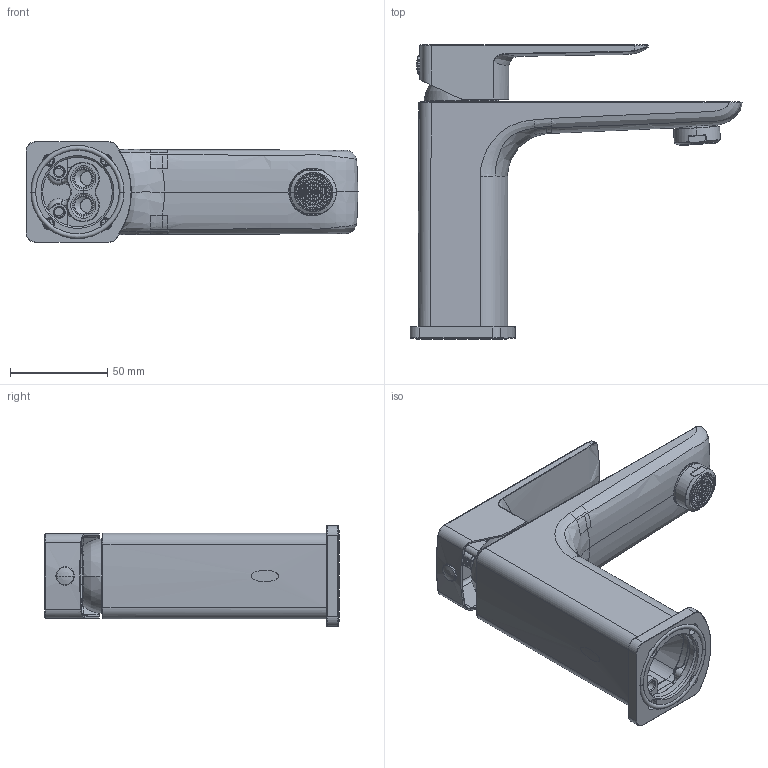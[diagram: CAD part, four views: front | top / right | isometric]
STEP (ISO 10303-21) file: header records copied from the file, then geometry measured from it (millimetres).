
FILE_DESCRIPTION((''),'2;1');
FILE_NAME('PT-139003_ASM','2024-02-22T09:56:18',('GL-JISHU1'),(''),'CREO PARAMETRIC BY PTC INC, 2021063','CREO PARAMETRIC BY PTC INC, 2021063','');
FILE_SCHEMA(('AUTOMOTIVE_DESIGN { 1 0 10303 214 1 1 1 1 }'));
Length unit declared in the file: millimetre
Products named in the file (22): 5ZT-181003-BCR; _X2_96F64EF651E04F554F53_X0_; _X2_51E04F554F53_X0__2; _X2_51E04F554F53_X0__3; _X2_51E04F554F53_X0__4; _X2_51E04F554F53_X0__5; _X2_51E04F554F53_X0__6_1; _X2_51E04F554F53_X0__6_2; 3FX-001031-MAA_ASM; 3YG-001009-AJJ; 3ZG-010013-GCR; 3BS-181003-HCR; 3LS-001063-JAA; 3SN-001001-MCR; 5DZ-001045-ACR; 3LS-001431-JAA; 3JQ-001254-NAA; 3WK-001004-ACR; 3WD-001024-MAA; 3JQ-001519-NAA; 24WZ-_ASM; PT-139003_ASM
Assembly tree (24 placements, depth 3):
  PT-139003_ASM
    5ZT-181003-BCR
    3FX-001031-MAA_ASM
      _X2_96F64EF651E04F554F53_X0_
      _X2_51E04F554F53_X0__2
      _X2_51E04F554F53_X0__3
      _X2_51E04F554F53_X0__4
      _X2_51E04F554F53_X0__5
      _X2_51E04F554F53_X0__6_1
      _X2_51E04F554F53_X0__6_2
    3YG-001009-AJJ
    3ZG-010013-GCR
    3BS-181003-HCR
    3LS-001063-JAA
    3SN-001001-MCR
    5DZ-001045-ACR
    3LS-001431-JAA  x4
    3JQ-001254-NAA
    24WZ-_ASM
      3WK-001004-ACR
      3WD-001024-MAA
      3JQ-001519-NAA
Bounding box: 171 x 151.7 x 52 mm (x, y, z)
Volume: 155262.4 mm3; surface area: 120549 mm2
Topology: 22 solids, 24 shells, 2659 faces, 7355 edges, 4673 vertices
Faces by surface type: cylinder 1125, plane 912, torus 266, bspline 196, cone 113, sphere 28, extrusion 19
Entity records: 111120 total; most frequent: CARTESIAN_POINT 45236, ORIENTED_EDGE 13810, DIRECTION 12661, EDGE_CURVE 6905, AXIS2_PLACEMENT_3D 4620, VERTEX_POINT 4400, VECTOR 3421, LINE 3402
